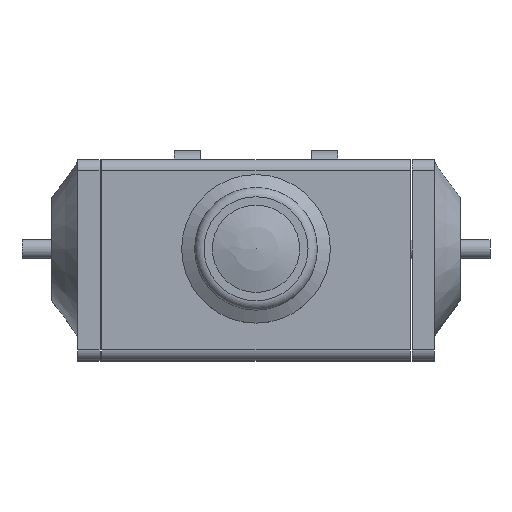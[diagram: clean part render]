
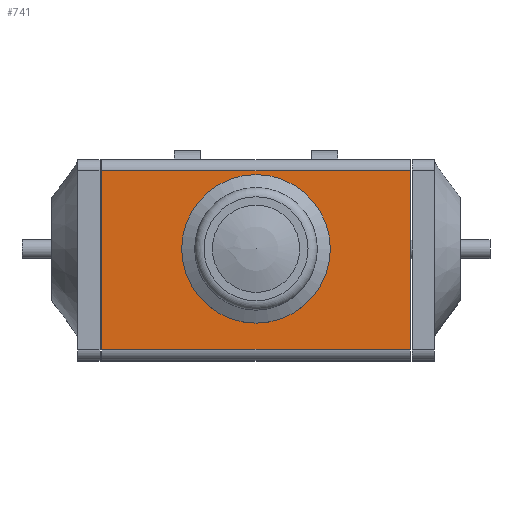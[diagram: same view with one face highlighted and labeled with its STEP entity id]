
A CAD part, top view. The second image highlights one B-rep face of the part: STEP entity #741.
In plain terms, the highlighted planar face has unit normal (0, 0, 1).
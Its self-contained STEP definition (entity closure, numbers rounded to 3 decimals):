
#741 = ADVANCED_FACE( '', ( #1744, #1745 ), #1746, .F. );
#1744 = FACE_BOUND( '', #3660, .T. );
#1745 = FACE_OUTER_BOUND( '', #3661, .T. );
#1746 = PLANE( '', #3662 );
#3660 = EDGE_LOOP( '', ( #7237 ) );
#3661 = EDGE_LOOP( '', ( #7238, #7239, #7240, #7241 ) );
#3662 = AXIS2_PLACEMENT_3D( '', #7242, #7243, #7244 );
#7237 = ORIENTED_EDGE( '', *, *, #9669, .T. );
#7238 = ORIENTED_EDGE( '', *, *, #9609, .F. );
#7239 = ORIENTED_EDGE( '', *, *, #9688, .T. );
#7240 = ORIENTED_EDGE( '', *, *, #9689, .T. );
#7241 = ORIENTED_EDGE( '', *, *, #9060, .T. );
#7242 = CARTESIAN_POINT( '', ( 41.5, 24., 23.7 ) );
#7243 = DIRECTION( '', ( 0., 0., -1. ) );
#7244 = DIRECTION( '', ( 0., 1., 0. ) );
#9060 = EDGE_CURVE( '', #10423, #10420, #10424, .F. );
#9609 = EDGE_CURVE( '', #11308, #10420, #11310, .T. );
#9669 = EDGE_CURVE( '', #11388, #11388, #11389, .T. );
#9688 = EDGE_CURVE( '', #11308, #11413, #11414, .T. );
#9689 = EDGE_CURVE( '', #11413, #10423, #11415, .T. );
#10420 = VERTEX_POINT( '', #12539 );
#10423 = VERTEX_POINT( '', #12542 );
#10424 = LINE( '', #12543, #12544 );
#11308 = VERTEX_POINT( '', #15384 );
#11310 = LINE( '', #15386, #15387 );
#11388 = VERTEX_POINT( '', #15503 );
#11389 = CIRCLE( '', #15504, 20. );
#11413 = VERTEX_POINT( '', #15534 );
#11414 = LINE( '', #15535, #15536 );
#11415 = LINE( '', #15537, #15538 );
#12539 = CARTESIAN_POINT( '', ( 41.5, -27., 23.7 ) );
#12542 = CARTESIAN_POINT( '', ( -41.5, -27., 23.7 ) );
#12543 = CARTESIAN_POINT( '', ( 41.5, -27., 23.7 ) );
#12544 = VECTOR( '', #16918, 1000. );
#15384 = CARTESIAN_POINT( '', ( 41.5, 21., 23.7 ) );
#15386 = CARTESIAN_POINT( '', ( 41.5, 24., 23.7 ) );
#15387 = VECTOR( '', #17347, 1000. );
#15503 = CARTESIAN_POINT( '', ( -20., 0., 23.7 ) );
#15504 = AXIS2_PLACEMENT_3D( '', #17396, #17397, #17398 );
#15534 = CARTESIAN_POINT( '', ( -41.5, 21., 23.7 ) );
#15535 = CARTESIAN_POINT( '', ( 41.5, 21., 23.7 ) );
#15536 = VECTOR( '', #17416, 1000. );
#15537 = CARTESIAN_POINT( '', ( -41.5, 24., 23.7 ) );
#15538 = VECTOR( '', #17417, 1000. );
#16918 = DIRECTION( '', ( -1., 0., 0. ) );
#17347 = DIRECTION( '', ( 0., -1., 0. ) );
#17396 = CARTESIAN_POINT( '', ( 0., 0., 23.7 ) );
#17397 = DIRECTION( '', ( 0., 0., -1. ) );
#17398 = DIRECTION( '', ( -1., 0., 0. ) );
#17416 = DIRECTION( '', ( -1., 0., 0. ) );
#17417 = DIRECTION( '', ( 0., -1., 0. ) );
